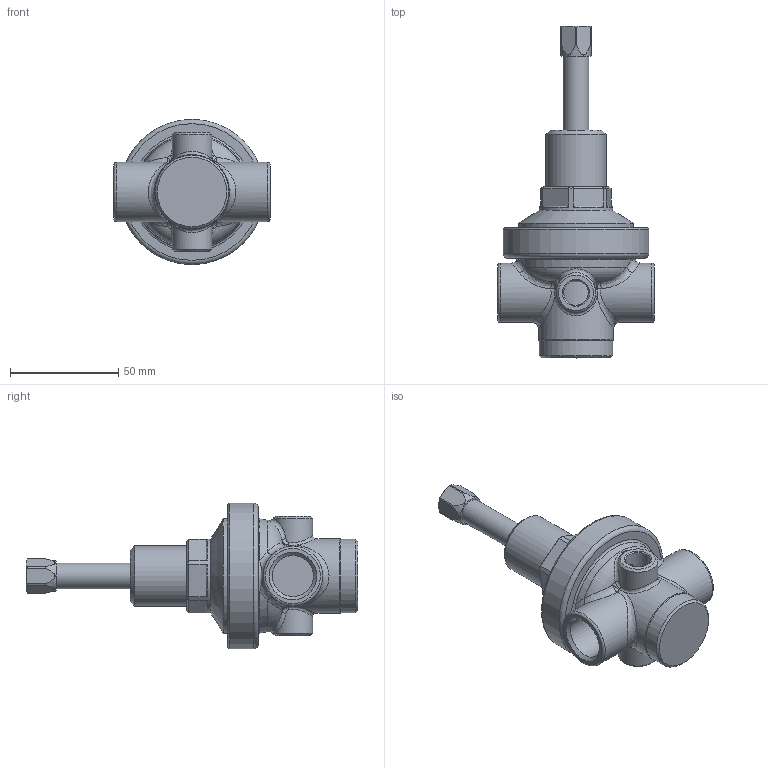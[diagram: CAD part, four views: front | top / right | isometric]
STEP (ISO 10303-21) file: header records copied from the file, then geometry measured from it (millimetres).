
FILE_DESCRIPTION(/* description */ (''),/* implementation_level */ '2;1');
FILE_NAME(/* name */ 'B-R280-04D-E.step',/* time_stamp */ '2025-05-08T15:47:37+02:00',/* author */ (''),/* organization */ (''),/* preprocessor_version */ 'ST-DEVELOPER v20.1',/* originating_system */ 'Autodesk Translation Framework v14.4.0.0',/* authorisation */ '');
FILE_SCHEMA (('AUTOMOTIVE_DESIGN { 1 0 10303 214 3 1 1 }'));
Length unit declared in the file: millimetre
Products named in the file (1): Unbenannt
Bounding box: 72 x 153 x 67 mm (x, y, z)
Volume: 162573.3 mm3; surface area: 26144.4 mm2
Topology: 1 solids, 1 shells, 126 faces, 299 edges, 184 vertices
Faces by surface type: plane 37, cylinder 27, torus 21, cone 19, bspline 18, sphere 4
Full cylindrical faces by diameter (mm): 11.47 x2, 11.8 x1, 19 x2, 27.34 x2, 27.8 x1, 34 x2, 34.399 x1, 53 x1, 67.003 x1
Entity records: 8455 total; most frequent: CARTESIAN_POINT 5632, ORIENTED_EDGE 598, DIRECTION 572, EDGE_CURVE 299, AXIS2_PLACEMENT_3D 253, VERTEX_POINT 184, CIRCLE 144, EDGE_LOOP 135
